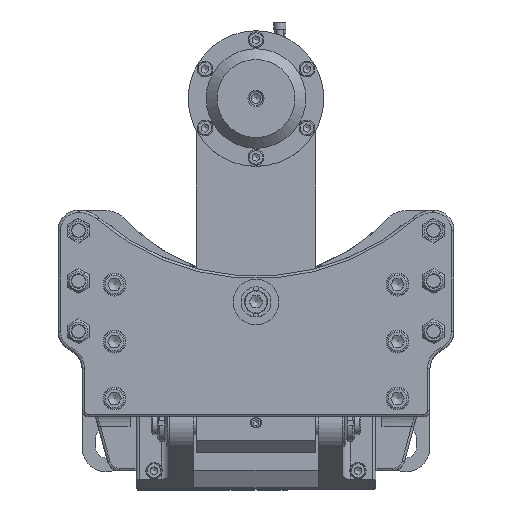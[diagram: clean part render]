
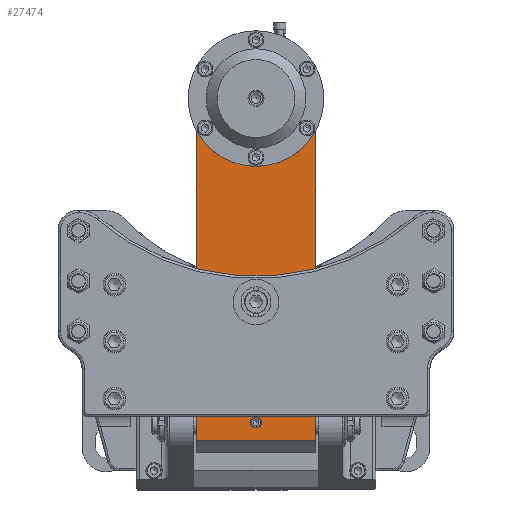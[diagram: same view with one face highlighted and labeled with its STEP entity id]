
A CAD part, top view. The second image highlights one B-rep face of the part: STEP entity #27474.
In plain terms, the highlighted planar face has unit normal (0, 0, 1).
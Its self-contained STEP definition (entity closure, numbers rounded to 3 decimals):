
#1065=FACE_BOUND('',#4231,.T.);
#1066=FACE_BOUND('',#4232,.T.);
#1593=PLANE('',#29622);
#2629=FACE_OUTER_BOUND('',#4230,.T.);
#4230=EDGE_LOOP('',(#20733,#20734,#20735,#20736,#20737,#20738,#20739,#20740,
#20741));
#4231=EDGE_LOOP('',(#20742,#20743));
#4232=EDGE_LOOP('',(#20744,#20745));
#6045=LINE('',#49662,#7958);
#6112=LINE('',#49873,#8025);
#6119=LINE('',#49930,#8032);
#6121=LINE('',#49934,#8034);
#6122=LINE('',#49935,#8035);
#6123=LINE('',#49937,#8036);
#6129=LINE('',#49955,#8042);
#7958=VECTOR('',#34494,10.);
#8025=VECTOR('',#34717,10.);
#8032=VECTOR('',#34730,10.);
#8034=VECTOR('',#34734,10.);
#8035=VECTOR('',#34735,10.);
#8036=VECTOR('',#34738,10.);
#8042=VECTOR('',#34762,10.);
#9186=CIRCLE('',#28537,47.5);
#9188=CIRCLE('',#28539,47.5);
#9292=CIRCLE('',#28738,9.9);
#9293=CIRCLE('',#28739,9.9);
#9706=CIRCLE('',#29617,4.459);
#9707=CIRCLE('',#29618,4.459);
#10783=VERTEX_POINT('',#39995);
#10784=VERTEX_POINT('',#39997);
#10785=VERTEX_POINT('',#39999);
#10952=VERTEX_POINT('',#42593);
#10953=VERTEX_POINT('',#42595);
#11741=VERTEX_POINT('',#49659);
#11742=VERTEX_POINT('',#49661);
#11807=VERTEX_POINT('',#49870);
#11808=VERTEX_POINT('',#49872);
#11815=VERTEX_POINT('',#49928);
#11816=VERTEX_POINT('',#49932);
#11818=VERTEX_POINT('',#49942);
#11819=VERTEX_POINT('',#49943);
#13521=EDGE_CURVE('',#10784,#10783,#9186,.T.);
#13523=EDGE_CURVE('',#10783,#10785,#9188,.T.);
#13770=EDGE_CURVE('',#10953,#10952,#9292,.T.);
#13771=EDGE_CURVE('',#10952,#10953,#9293,.T.);
#14933=EDGE_CURVE('',#11742,#11741,#6045,.T.);
#15041=EDGE_CURVE('',#11808,#11807,#6112,.T.);
#15051=EDGE_CURVE('',#11815,#11807,#6119,.T.);
#15053=EDGE_CURVE('',#11816,#10785,#6121,.T.);
#15054=EDGE_CURVE('',#10784,#11815,#6122,.T.);
#15055=EDGE_CURVE('',#11742,#11816,#6123,.T.);
#15057=EDGE_CURVE('',#11818,#11819,#9706,.T.);
#15058=EDGE_CURVE('',#11819,#11818,#9707,.T.);
#15064=EDGE_CURVE('',#11741,#11808,#6129,.T.);
#20733=ORIENTED_EDGE('',*,*,#13523,.T.);
#20734=ORIENTED_EDGE('',*,*,#15053,.F.);
#20735=ORIENTED_EDGE('',*,*,#15055,.F.);
#20736=ORIENTED_EDGE('',*,*,#14933,.T.);
#20737=ORIENTED_EDGE('',*,*,#15064,.T.);
#20738=ORIENTED_EDGE('',*,*,#15041,.T.);
#20739=ORIENTED_EDGE('',*,*,#15051,.F.);
#20740=ORIENTED_EDGE('',*,*,#15054,.F.);
#20741=ORIENTED_EDGE('',*,*,#13521,.T.);
#20742=ORIENTED_EDGE('',*,*,#13770,.T.);
#20743=ORIENTED_EDGE('',*,*,#13771,.T.);
#20744=ORIENTED_EDGE('',*,*,#15057,.T.);
#20745=ORIENTED_EDGE('',*,*,#15058,.T.);
#27474=ADVANCED_FACE('',(#2629,#1065,#1066),#1593,.T.);
#28537=AXIS2_PLACEMENT_3D('',#39998,#31835,#31836);
#28539=AXIS2_PLACEMENT_3D('',#40001,#31839,#31840);
#28738=AXIS2_PLACEMENT_3D('',#42596,#32346,#32347);
#28739=AXIS2_PLACEMENT_3D('',#42597,#32348,#32349);
#29617=AXIS2_PLACEMENT_3D('',#49944,#34745,#34746);
#29618=AXIS2_PLACEMENT_3D('',#49945,#34747,#34748);
#29622=AXIS2_PLACEMENT_3D('',#49954,#34760,#34761);
#31835=DIRECTION('center_axis',(0.,0.,
-1.));
#31836=DIRECTION('ref_axis',(0.,1.,0.));
#31839=DIRECTION('center_axis',(0.,0.,
-1.));
#31840=DIRECTION('ref_axis',(0.,1.,0.));
#32346=DIRECTION('center_axis',(0.,0.,
-1.));
#32347=DIRECTION('ref_axis',(0.,1.,0.));
#32348=DIRECTION('center_axis',(0.,0.,
-1.));
#32349=DIRECTION('ref_axis',(0.,1.,0.));
#34494=DIRECTION('',(0.,-1.,0.));
#34717=DIRECTION('',(0.,1.,0.));
#34730=DIRECTION('',(0.707,-0.707,0.));
#34734=DIRECTION('',(1.,0.,0.));
#34735=DIRECTION('',(1.,0.,0.));
#34738=DIRECTION('',(0.707,0.707,0.));
#34745=DIRECTION('center_axis',(0.,0.,
-1.));
#34746=DIRECTION('ref_axis',(1.,0.,0.));
#34747=DIRECTION('center_axis',(0.,0.,
-1.));
#34748=DIRECTION('ref_axis',(1.,0.,0.));
#34760=DIRECTION('center_axis',(0.,0.,
1.));
#34761=DIRECTION('ref_axis',(1.,0.,0.));
#34762=DIRECTION('',(1.,0.,0.));
#39995=CARTESIAN_POINT('',(0.,217.5,201.6));
#39997=CARTESIAN_POINT('',(15.207,310.,201.6));
#39998=CARTESIAN_POINT('Origin',(0.,265.,
201.6));
#39999=CARTESIAN_POINT('',(-15.207,310.,201.6));
#40001=CARTESIAN_POINT('Origin',(0.,265.,
201.6));
#42593=CARTESIAN_POINT('',(0.,85.6,201.6));
#42595=CARTESIAN_POINT('',(0.,105.4,201.6));
#42596=CARTESIAN_POINT('Origin',(0.,95.5,
201.6));
#42597=CARTESIAN_POINT('Origin',(0.,95.5,
201.6));
#49659=CARTESIAN_POINT('',(-50.,-20.,201.6));
#49661=CARTESIAN_POINT('',(-50.,290.,201.6));
#49662=CARTESIAN_POINT('',(-50.,310.,201.6));
#49870=CARTESIAN_POINT('',(50.,290.,201.6));
#49872=CARTESIAN_POINT('',(50.,-20.,201.6));
#49873=CARTESIAN_POINT('',(50.,310.,201.6));
#49928=CARTESIAN_POINT('',(30.,310.,201.6));
#49930=CARTESIAN_POINT('',(27.5,312.5,201.6));
#49932=CARTESIAN_POINT('',(-30.,310.,201.6));
#49934=CARTESIAN_POINT('',(0.,310.,201.6));
#49935=CARTESIAN_POINT('',(0.,310.,201.6));
#49937=CARTESIAN_POINT('',(-27.5,312.5,201.6));
#49942=CARTESIAN_POINT('',(4.459,-5.,201.6));
#49943=CARTESIAN_POINT('',(-4.458,-5.,201.6));
#49944=CARTESIAN_POINT('Origin',(0.,-5.,
201.6));
#49945=CARTESIAN_POINT('Origin',(0.,-5.,
201.6));
#49954=CARTESIAN_POINT('Origin',(0.,310.,201.6));
#49955=CARTESIAN_POINT('',(0.,-20.,201.6));
